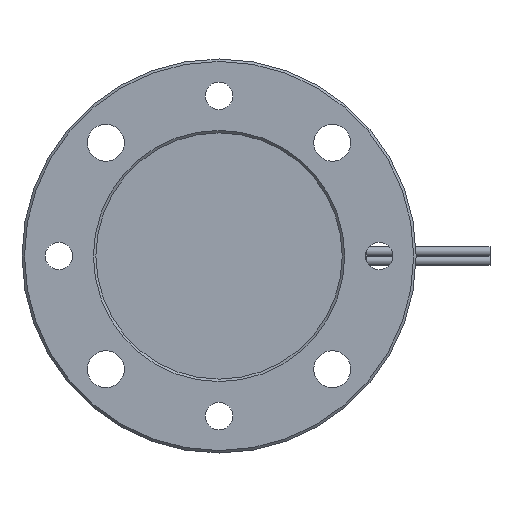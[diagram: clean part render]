
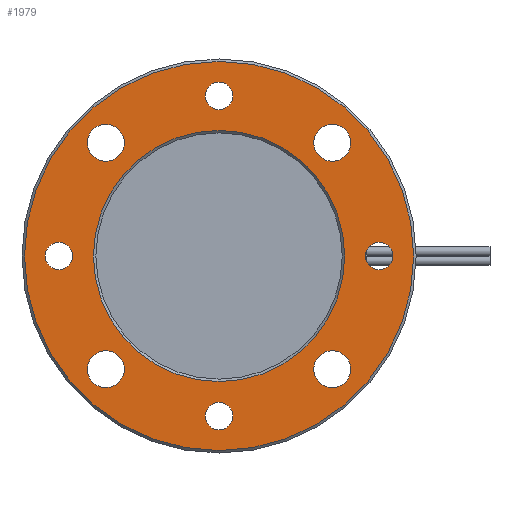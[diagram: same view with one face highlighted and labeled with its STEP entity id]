
A CAD part, left-side view. The second image highlights one B-rep face of the part: STEP entity #1979.
In plain terms, the highlighted planar face has unit normal (-1, 0, 0).
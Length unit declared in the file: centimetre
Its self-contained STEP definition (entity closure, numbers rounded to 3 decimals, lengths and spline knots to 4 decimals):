
#832=PLANE('',#2077);
#870=VERTEX_POINT('',#2259);
#871=VERTEX_POINT('',#2262);
#872=VERTEX_POINT('',#2264);
#873=VERTEX_POINT('',#2266);
#874=VERTEX_POINT('',#2268);
#875=VERTEX_POINT('',#2270);
#876=VERTEX_POINT('',#2272);
#877=VERTEX_POINT('',#2274);
#878=VERTEX_POINT('',#2276);
#879=VERTEX_POINT('',#2278);
#1007=CIRCLE('',#2076,0.51);
#1008=CIRCLE('',#2078,0.79);
#1009=CIRCLE('',#2079,0.075);
#1010=CIRCLE('',#2080,0.075);
#1011=CIRCLE('',#2081,0.075);
#1012=CIRCLE('',#2082,0.075);
#1013=CIRCLE('',#2083,0.056);
#1014=CIRCLE('',#2084,0.056);
#1015=CIRCLE('',#2085,0.056);
#1016=CIRCLE('',#2086,0.056);
#1090=EDGE_CURVE('',#870,#870,#1007,.T.);
#1091=EDGE_CURVE('',#871,#871,#1008,.T.);
#1092=EDGE_CURVE('',#872,#872,#1009,.T.);
#1093=EDGE_CURVE('',#873,#873,#1010,.T.);
#1094=EDGE_CURVE('',#874,#874,#1011,.T.);
#1095=EDGE_CURVE('',#875,#875,#1012,.T.);
#1096=EDGE_CURVE('',#876,#876,#1013,.T.);
#1097=EDGE_CURVE('',#877,#877,#1014,.T.);
#1098=EDGE_CURVE('',#878,#878,#1015,.T.);
#1099=EDGE_CURVE('',#879,#879,#1016,.T.);
#1266=ORIENTED_EDGE('',*,*,#1091,.F.);
#1267=ORIENTED_EDGE('',*,*,#1092,.T.);
#1268=ORIENTED_EDGE('',*,*,#1093,.T.);
#1269=ORIENTED_EDGE('',*,*,#1094,.T.);
#1270=ORIENTED_EDGE('',*,*,#1095,.T.);
#1271=ORIENTED_EDGE('',*,*,#1096,.T.);
#1272=ORIENTED_EDGE('',*,*,#1097,.T.);
#1273=ORIENTED_EDGE('',*,*,#1098,.T.);
#1274=ORIENTED_EDGE('',*,*,#1099,.T.);
#1275=ORIENTED_EDGE('',*,*,#1090,.F.);
#1616=EDGE_LOOP('',(#1266));
#1617=EDGE_LOOP('',(#1267));
#1618=EDGE_LOOP('',(#1268));
#1619=EDGE_LOOP('',(#1269));
#1620=EDGE_LOOP('',(#1270));
#1621=EDGE_LOOP('',(#1271));
#1622=EDGE_LOOP('',(#1272));
#1623=EDGE_LOOP('',(#1273));
#1624=EDGE_LOOP('',(#1274));
#1625=EDGE_LOOP('',(#1275));
#1798=FACE_BOUND('',#1616,.T.);
#1799=FACE_BOUND('',#1617,.T.);
#1800=FACE_BOUND('',#1618,.T.);
#1801=FACE_BOUND('',#1619,.T.);
#1802=FACE_BOUND('',#1620,.T.);
#1803=FACE_BOUND('',#1621,.T.);
#1804=FACE_BOUND('',#1622,.T.);
#1805=FACE_BOUND('',#1623,.T.);
#1806=FACE_BOUND('',#1624,.T.);
#1807=FACE_BOUND('',#1625,.T.);
#1979=ADVANCED_FACE('',(#1798,#1799,#1800,#1801,#1802,#1803,#1804,#1805,
#1806,#1807),#832,.T.);
#2076=AXIS2_PLACEMENT_3D('',#2258,#3503,#3504);
#2077=AXIS2_PLACEMENT_3D('',#2260,#3505,$);
#2078=AXIS2_PLACEMENT_3D('',#2261,#3506,#3507);
#2079=AXIS2_PLACEMENT_3D('',#2263,#3508,#3509);
#2080=AXIS2_PLACEMENT_3D('',#2265,#3510,#3511);
#2081=AXIS2_PLACEMENT_3D('',#2267,#3512,#3513);
#2082=AXIS2_PLACEMENT_3D('',#2269,#3514,#3515);
#2083=AXIS2_PLACEMENT_3D('',#2271,#3516,#3517);
#2084=AXIS2_PLACEMENT_3D('',#2273,#3518,#3519);
#2085=AXIS2_PLACEMENT_3D('',#2275,#3520,#3521);
#2086=AXIS2_PLACEMENT_3D('',#2277,#3522,#3523);
#2258=CARTESIAN_POINT('',(-1.65,0.,0.));
#2259=CARTESIAN_POINT('',(-1.65,0.,0.51));
#2260=CARTESIAN_POINT('',(-1.65,0.4,0.));
#2261=CARTESIAN_POINT('',(-1.65,0.,0.));
#2262=CARTESIAN_POINT('',(-1.65,0.79,0.));
#2263=CARTESIAN_POINT('',(-1.65,0.4596,0.4596));
#2264=CARTESIAN_POINT('',(-1.65,0.5346,0.4596));
#2265=CARTESIAN_POINT('',(-1.65,-0.4596,0.4596));
#2266=CARTESIAN_POINT('',(-1.65,-0.3846,0.4596));
#2267=CARTESIAN_POINT('',(-1.65,-0.4596,-0.4596));
#2268=CARTESIAN_POINT('',(-1.65,-0.3846,-0.4596));
#2269=CARTESIAN_POINT('',(-1.65,0.4596,-0.4596));
#2270=CARTESIAN_POINT('',(-1.65,0.5346,-0.4596));
#2271=CARTESIAN_POINT('',(-1.65,0.,-0.65));
#2272=CARTESIAN_POINT('',(-1.65,0.056,-0.65));
#2273=CARTESIAN_POINT('',(-1.65,-0.65,0.));
#2274=CARTESIAN_POINT('',(-1.65,-0.594,0.));
#2275=CARTESIAN_POINT('',(-1.65,0.,0.65));
#2276=CARTESIAN_POINT('',(-1.65,0.056,0.65));
#2277=CARTESIAN_POINT('',(-1.65,0.65,0.));
#2278=CARTESIAN_POINT('',(-1.65,0.706,0.));
#3503=DIRECTION('',(-1.,0.,0.));
#3504=DIRECTION('',(0.,0.,-0.51));
#3505=DIRECTION('',(-1.,0.,0.));
#3506=DIRECTION('',(1.,0.,0.));
#3507=DIRECTION('',(0.,-0.79,0.));
#3508=DIRECTION('',(1.,0.,0.));
#3509=DIRECTION('',(0.,0.075,0.));
#3510=DIRECTION('',(1.,0.,0.));
#3511=DIRECTION('',(0.,0.075,0.));
#3512=DIRECTION('',(1.,0.,0.));
#3513=DIRECTION('',(0.,0.075,0.));
#3514=DIRECTION('',(1.,0.,0.));
#3515=DIRECTION('',(0.,0.075,0.));
#3516=DIRECTION('',(1.,0.,0.));
#3517=DIRECTION('',(0.,0.056,0.));
#3518=DIRECTION('',(1.,0.,0.));
#3519=DIRECTION('',(0.,0.056,0.));
#3520=DIRECTION('',(1.,0.,0.));
#3521=DIRECTION('',(0.,0.056,0.));
#3522=DIRECTION('',(1.,0.,0.));
#3523=DIRECTION('',(0.,0.056,0.));
